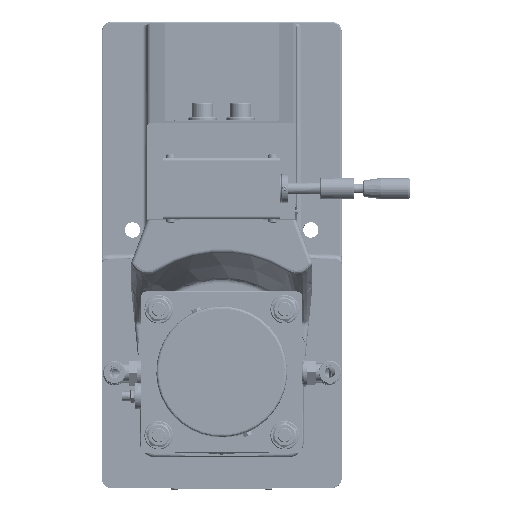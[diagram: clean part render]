
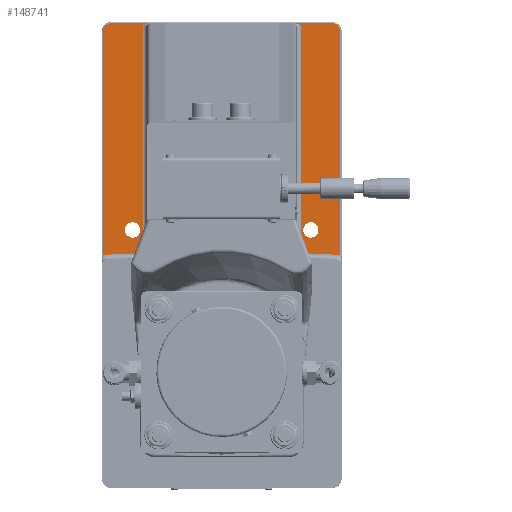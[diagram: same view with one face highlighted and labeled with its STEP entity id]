
A CAD part, top view. The second image highlights one B-rep face of the part: STEP entity #148741.
In plain terms, the highlighted planar face has unit normal (0, 0, 1).
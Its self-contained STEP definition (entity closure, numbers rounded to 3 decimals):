
#9095=LINE('',#217510,#23132);
#9226=LINE('',#218568,#23263);
#9227=LINE('',#218650,#23264);
#9229=LINE('',#218652,#23266);
#9231=LINE('',#218664,#23268);
#9248=LINE('',#218793,#23285);
#9249=LINE('',#218794,#23286);
#9250=LINE('',#218798,#23287);
#9251=LINE('',#218801,#23288);
#23132=VECTOR('',#173782,183.48);
#23263=VECTOR('',#174415,188.744);
#23264=VECTOR('',#174428,31.61);
#23266=VECTOR('',#174430,31.61);
#23268=VECTOR('',#174444,188.744);
#23285=VECTOR('',#174479,133.);
#23286=VECTOR('',#174480,183.48);
#23287=VECTOR('',#174483,96.075);
#23288=VECTOR('',#174486,96.075);
#31945=B_SPLINE_CURVE_WITH_KNOTS('',3,(#217382,#217383,#217384,#217385,
#217386,#217387,#217388,#217389),.UNSPECIFIED.,.F.,.F.,(4,2,2,4),(-0.001,
0.,0.358,0.52),.UNSPECIFIED.);
#31947=B_SPLINE_CURVE_WITH_KNOTS('',3,(#217444,#217445,#217446,#217447,
#217448,#217449,#217450,#217451,#217452,#217453),.UNSPECIFIED.,.F.,.F.,
(4,2,2,2,4),(0.,0.162,0.37,0.581,0.582),
 .UNSPECIFIED.);
#36374=FACE_BOUND('',#49073,.T.);
#36375=FACE_BOUND('',#49074,.T.);
#40752=FACE_OUTER_BOUND('',#49072,.T.);
#49072=EDGE_LOOP('',(#108618,#108619,#108620,#108621,#108622,#108623,#108624,
#108625,#108626,#108627,#108628,#108629,#108630,#108631,#108632,#108633));
#49073=EDGE_LOOP('',(#108634));
#49074=EDGE_LOOP('',(#108635));
#55907=CIRCLE('',#156793,7.);
#55911=CIRCLE('',#156799,7.);
#55914=CIRCLE('',#156805,9.);
#55919=CIRCLE('',#156812,9.);
#55920=CIRCLE('',#156813,9.);
#55921=CIRCLE('',#156814,6.5);
#55922=CIRCLE('',#156815,6.5);
#62716=VERTEX_POINT('',#217380);
#62717=VERTEX_POINT('',#217381);
#62721=VERTEX_POINT('',#217399);
#62723=VERTEX_POINT('',#217443);
#62724=VERTEX_POINT('',#217497);
#62851=VERTEX_POINT('',#218561);
#62854=VERTEX_POINT('',#218566);
#62857=VERTEX_POINT('',#218642);
#62859=VERTEX_POINT('',#218648);
#62861=VERTEX_POINT('',#218656);
#62863=VERTEX_POINT('',#218662);
#62877=VERTEX_POINT('',#218778);
#62882=VERTEX_POINT('',#218792);
#62883=VERTEX_POINT('',#218795);
#62884=VERTEX_POINT('',#218797);
#62885=VERTEX_POINT('',#218799);
#62886=VERTEX_POINT('',#218802);
#62887=VERTEX_POINT('',#218804);
#79314=EDGE_CURVE('',#62716,#62717,#31945,.T.);
#79327=EDGE_CURVE('',#62723,#62721,#31947,.F.);
#79331=EDGE_CURVE('',#62724,#62723,#9095,.T.);
#79591=EDGE_CURVE('',#62854,#62851,#9226,.T.);
#79595=EDGE_CURVE('',#62857,#62854,#55907,.T.);
#79598=EDGE_CURVE('',#62859,#62717,#9227,.T.);
#79600=EDGE_CURVE('',#62721,#62857,#9229,.T.);
#79603=EDGE_CURVE('',#62861,#62859,#55911,.T.);
#79606=EDGE_CURVE('',#62863,#62861,#9231,.T.);
#79623=EDGE_CURVE('',#62851,#62877,#55914,.T.);
#79630=EDGE_CURVE('',#62882,#62724,#9248,.T.);
#79631=EDGE_CURVE('',#62716,#62882,#9249,.T.);
#79632=EDGE_CURVE('',#62883,#62863,#55919,.T.);
#79633=EDGE_CURVE('',#62884,#62883,#9250,.T.);
#79634=EDGE_CURVE('',#62885,#62884,#55920,.T.);
#79635=EDGE_CURVE('',#62877,#62885,#9251,.T.);
#79636=EDGE_CURVE('',#62886,#62886,#55921,.T.);
#79637=EDGE_CURVE('',#62887,#62887,#55922,.T.);
#108618=ORIENTED_EDGE('',*,*,#79591,.F.);
#108619=ORIENTED_EDGE('',*,*,#79595,.F.);
#108620=ORIENTED_EDGE('',*,*,#79600,.F.);
#108621=ORIENTED_EDGE('',*,*,#79327,.F.);
#108622=ORIENTED_EDGE('',*,*,#79331,.F.);
#108623=ORIENTED_EDGE('',*,*,#79630,.F.);
#108624=ORIENTED_EDGE('',*,*,#79631,.F.);
#108625=ORIENTED_EDGE('',*,*,#79314,.T.);
#108626=ORIENTED_EDGE('',*,*,#79598,.F.);
#108627=ORIENTED_EDGE('',*,*,#79603,.F.);
#108628=ORIENTED_EDGE('',*,*,#79606,.F.);
#108629=ORIENTED_EDGE('',*,*,#79632,.F.);
#108630=ORIENTED_EDGE('',*,*,#79633,.F.);
#108631=ORIENTED_EDGE('',*,*,#79634,.F.);
#108632=ORIENTED_EDGE('',*,*,#79635,.F.);
#108633=ORIENTED_EDGE('',*,*,#79623,.F.);
#108634=ORIENTED_EDGE('',*,*,#79636,.T.);
#108635=ORIENTED_EDGE('',*,*,#79637,.T.);
#134848=PLANE('',#156811);
#148741=ADVANCED_FACE('',(#40752,#36374,#36375),#134848,.T.);
#156793=AXIS2_PLACEMENT_3D('',#218644,#174420,#174421);
#156799=AXIS2_PLACEMENT_3D('',#218658,#174436,#174437);
#156805=AXIS2_PLACEMENT_3D('',#218779,#174463,#174464);
#156811=AXIS2_PLACEMENT_3D('',#218791,#174477,#174478);
#156812=AXIS2_PLACEMENT_3D('',#218796,#174481,#174482);
#156813=AXIS2_PLACEMENT_3D('',#218800,#174484,#174485);
#156814=AXIS2_PLACEMENT_3D('',#218803,#174487,#174488);
#156815=AXIS2_PLACEMENT_3D('',#218805,#174489,#174490);
#173782=DIRECTION('',(0.,1.,0.));
#174415=DIRECTION('',(0.,-1.,0.));
#174420=DIRECTION('center_axis',(0.,0.,
-1.));
#174421=DIRECTION('ref_axis',(0.707,0.707,0.));
#174428=DIRECTION('',(1.,0.,0.));
#174430=DIRECTION('',(1.,0.,0.));
#174436=DIRECTION('center_axis',(0.,0.,
-1.));
#174437=DIRECTION('ref_axis',(-0.707,0.707,0.));
#174444=DIRECTION('',(0.,1.,0.));
#174463=DIRECTION('center_axis',(0.,0.,
1.));
#174464=DIRECTION('ref_axis',(0.721,0.693,0.));
#174477=DIRECTION('center_axis',(0.,0.,
1.));
#174478=DIRECTION('ref_axis',(1.,0.,0.));
#174479=DIRECTION('',(1.,0.,0.));
#174480=DIRECTION('',(0.,-1.,0.));
#174481=DIRECTION('center_axis',(0.,0.,
1.));
#174482=DIRECTION('ref_axis',(-0.721,0.693,0.));
#174483=DIRECTION('',(-0.999,-0.04,0.));
#174484=DIRECTION('center_axis',(0.,0.,
1.));
#174485=DIRECTION('ref_axis',(0.,1.,0.));
#174486=DIRECTION('',(-0.999,0.04,0.));
#174487=DIRECTION('center_axis',(0.,0.,
-1.));
#174488=DIRECTION('ref_axis',(1.,0.,0.));
#174489=DIRECTION('center_axis',(0.,0.,
-1.));
#174490=DIRECTION('ref_axis',(1.,0.,0.));
#217380=CARTESIAN_POINT('',(-66.5,195.98,47.));
#217381=CARTESIAN_POINT('',(-61.39,198.5,47.));
#217382=CARTESIAN_POINT('Ctrl Pts',(-66.5,195.98,47.));
#217383=CARTESIAN_POINT('Ctrl Pts',(-66.497,195.982,
47.));
#217384=CARTESIAN_POINT('Ctrl Pts',(-66.495,195.985,
47.));
#217385=CARTESIAN_POINT('Ctrl Pts',(-65.615,196.799,
47.));
#217386=CARTESIAN_POINT('Ctrl Pts',(-64.539,197.685,
47.));
#217387=CARTESIAN_POINT('Ctrl Pts',(-62.635,198.376,
47.));
#217388=CARTESIAN_POINT('Ctrl Pts',(-62.017,198.5,47.));
#217389=CARTESIAN_POINT('Ctrl Pts',(-61.39,198.5,47.));
#217399=CARTESIAN_POINT('',(61.39,198.5,47.));
#217443=CARTESIAN_POINT('',(66.5,195.98,47.));
#217444=CARTESIAN_POINT('Ctrl Pts',(61.39,198.5,47.));
#217445=CARTESIAN_POINT('Ctrl Pts',(61.931,198.5,47.));
#217446=CARTESIAN_POINT('Ctrl Pts',(62.467,198.408,47.));
#217447=CARTESIAN_POINT('Ctrl Pts',(63.645,198.035,47.));
#217448=CARTESIAN_POINT('Ctrl Pts',(64.262,197.715,47.));
#217449=CARTESIAN_POINT('Ctrl Pts',(65.431,196.93,47.));
#217450=CARTESIAN_POINT('Ctrl Pts',(65.965,196.475,47.));
#217451=CARTESIAN_POINT('Ctrl Pts',(66.495,195.985,47.));
#217452=CARTESIAN_POINT('Ctrl Pts',(66.497,195.982,47.));
#217453=CARTESIAN_POINT('Ctrl Pts',(66.5,195.98,47.));
#217497=CARTESIAN_POINT('',(66.5,12.5,47.));
#217510=CARTESIAN_POINT('',(66.5,23.,47.));
#218561=CARTESIAN_POINT('',(100.,2.756,47.));
#218566=CARTESIAN_POINT('',(100.,191.5,47.));
#218568=CARTESIAN_POINT('',(100.,101.5,47.));
#218642=CARTESIAN_POINT('',(93.,198.5,47.));
#218644=CARTESIAN_POINT('Origin',(93.,191.5,47.));
#218648=CARTESIAN_POINT('',(-93.,198.5,47.));
#218650=CARTESIAN_POINT('',(31.5,198.5,47.));
#218652=CARTESIAN_POINT('',(31.5,198.5,47.));
#218656=CARTESIAN_POINT('',(-100.,191.5,47.));
#218658=CARTESIAN_POINT('Origin',(-93.,191.5,47.));
#218662=CARTESIAN_POINT('',(-100.,2.756,47.));
#218664=CARTESIAN_POINT('',(-100.,-94.5,47.));
#218778=CARTESIAN_POINT('',(96.356,3.687,47.));
#218779=CARTESIAN_POINT('Origin',(96.,-5.306,47.));
#218791=CARTESIAN_POINT('Origin',(0.,3.5,
47.));
#218792=CARTESIAN_POINT('',(-66.5,12.5,47.));
#218793=CARTESIAN_POINT('',(-31.5,12.5,47.));
#218794=CARTESIAN_POINT('',(-66.5,101.,47.));
#218795=CARTESIAN_POINT('',(-96.356,3.687,47.));
#218796=CARTESIAN_POINT('Origin',(-96.,-5.306,47.));
#218797=CARTESIAN_POINT('',(-0.356,7.489,47.));
#218798=CARTESIAN_POINT('',(-50.658,5.497,47.));
#218799=CARTESIAN_POINT('',(0.356,7.489,47.));
#218800=CARTESIAN_POINT('Origin',(0.,-1.504,
47.));
#218801=CARTESIAN_POINT('',(0.158,7.497,47.));
#218802=CARTESIAN_POINT('',(-68.5,24.5,47.));
#218803=CARTESIAN_POINT('Origin',(-75.,24.5,47.));
#218804=CARTESIAN_POINT('',(81.5,24.5,47.));
#218805=CARTESIAN_POINT('Origin',(75.,24.5,47.));
